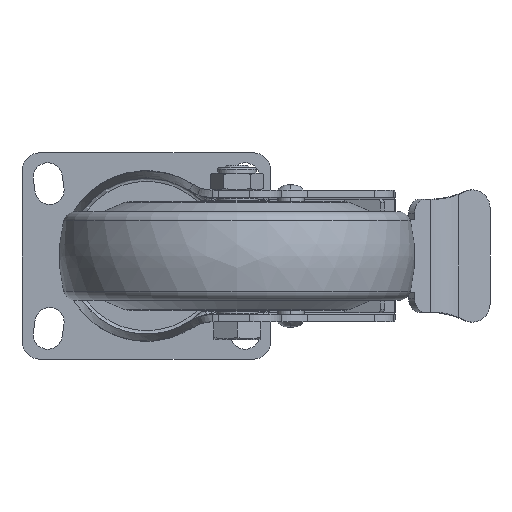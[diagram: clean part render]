
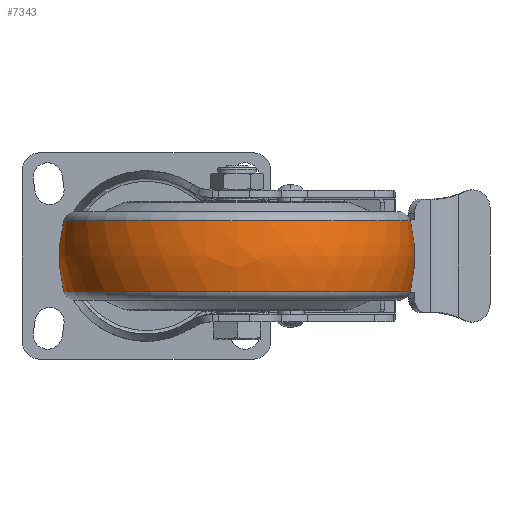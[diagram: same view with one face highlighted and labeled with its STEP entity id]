
A CAD part, front view. The second image highlights one B-rep face of the part: STEP entity #7343.
In plain terms, the highlighted free-form (B-spline) face has degree [3, 3] with [7, 4] control points.
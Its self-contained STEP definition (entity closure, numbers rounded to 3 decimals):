
#6845=CARTESIAN_POINT('',(0.,10.,0.));
#6846=DIRECTION('',(0.,0.,1.));
#6847=DIRECTION('',(0.247,0.969,0.));
#6848=AXIS2_PLACEMENT_3D('',#6845,#6846,#6847);
#6850=CARTESIAN_POINT('',(0.,-10.,0.));
#6851=DIRECTION('',(0.,0.,-1.));
#6852=DIRECTION('',(0.247,-0.969,0.));
#6853=AXIS2_PLACEMENT_3D('',#6850,#6851,#6852);
#6855=CARTESIAN_POINT('',(9.863,0.,0.));
#6856=DIRECTION('',(-1.,0.,0.));
#6857=DIRECTION('',(0.,1.,0.));
#6858=AXIS2_PLACEMENT_3D('',#6855,#6856,#6857);
#6880=CARTESIAN_POINT('',(-9.863,0.,0.));
#6881=DIRECTION('',(-1.,0.,0.));
#6882=DIRECTION('',(0.,1.,0.));
#6883=AXIS2_PLACEMENT_3D('',#6880,#6881,#6882);
#7034=CARTESIAN_POINT('',(9.863,48.765,0.));
#7036=VERTEX_POINT('',#7034);
#7037=CARTESIAN_POINT('',(-9.863,48.765,0.));
#7038=VERTEX_POINT('',#7037);
#7074=CARTESIAN_POINT('',(9.863,-48.765,
0.));
#7076=VERTEX_POINT('',#7074);
#7077=CARTESIAN_POINT('',(-9.863,-48.765,
0.));
#7078=VERTEX_POINT('',#7077);
#7305=CARTESIAN_POINT('',(-10.249,-48.569,
3.056));
#7306=CARTESIAN_POINT('',(-3.494,-50.356,
3.168));
#7307=CARTESIAN_POINT('',(3.494,-50.356,3.168));
#7308=CARTESIAN_POINT('',(10.249,-48.569,3.056));
#7309=CARTESIAN_POINT('',(-10.249,-50.449,
-26.833));
#7310=CARTESIAN_POINT('',(-3.494,-52.305,
-27.821));
#7311=CARTESIAN_POINT('',(3.494,-52.305,
-27.821));
#7312=CARTESIAN_POINT('',(10.249,-50.449,
-26.833));
#7313=CARTESIAN_POINT('',(-10.249,-29.948,
-48.665));
#7314=CARTESIAN_POINT('',(-3.494,-31.05,
-50.455));
#7315=CARTESIAN_POINT('',(3.494,-31.05,
-50.455));
#7316=CARTESIAN_POINT('',(10.249,-29.948,
-48.665));
#7317=CARTESIAN_POINT('',(-10.249,0.,
-48.665));
#7318=CARTESIAN_POINT('',(-3.494,0.,
-50.455));
#7319=CARTESIAN_POINT('',(3.494,0.,
-50.455));
#7320=CARTESIAN_POINT('',(10.249,0.,
-48.665));
#7321=CARTESIAN_POINT('',(-10.249,29.948,
-48.665));
#7322=CARTESIAN_POINT('',(-3.494,31.05,
-50.455));
#7323=CARTESIAN_POINT('',(3.494,31.05,-50.455));
#7324=CARTESIAN_POINT('',(10.249,29.948,-48.665));
#7325=CARTESIAN_POINT('',(-10.249,50.449,
-26.833));
#7326=CARTESIAN_POINT('',(-3.494,52.305,
-27.821));
#7327=CARTESIAN_POINT('',(3.494,52.305,-27.821));
#7328=CARTESIAN_POINT('',(10.249,50.449,-26.833));
#7329=CARTESIAN_POINT('',(-10.249,48.569,3.056));
#7330=CARTESIAN_POINT('',(-3.494,50.356,3.168));
#7331=CARTESIAN_POINT('',(3.494,50.356,3.168));
#7332=CARTESIAN_POINT('',(10.249,48.569,3.056));
#7333=(BOUNDED_SURFACE()B_SPLINE_SURFACE(3,3,((#7305,#7306,#7307,#7308),(#7309,
#7310,#7311,#7312),(#7313,#7314,#7315,#7316),(#7317,#7318,#7319,#7320),(#7321,
#7322,#7323,#7324),(#7325,#7326,#7327,#7328),(#7329,#7330,#7331,#7332)),
.UNSPECIFIED.,.F.,.F.,.F.)B_SPLINE_SURFACE_WITH_KNOTS((4,3,4),(4,4),(0.,1.,
2.),(0.,1.),.UNSPECIFIED.)GEOMETRIC_REPRESENTATION_ITEM()RATIONAL_B_SPLINE_SURFACE(((1.207,1.181,1.181,1.207),(
0.953,0.932,0.932,0.953),(
0.953,0.932,0.932,0.953),(
1.207,1.181,1.181,1.207),(
0.953,0.932,0.932,0.953),(
0.953,0.932,0.932,0.953),(
1.207,1.181,1.181,1.207)))REPRESENTATION_ITEM('')SURFACE());
#7335=ORIENTED_EDGE('',*,*,#7334,.T.);
#7337=ORIENTED_EDGE('',*,*,#7336,.T.);
#7339=ORIENTED_EDGE('',*,*,#7338,.F.);
#7340=ORIENTED_EDGE('',*,*,#7298,.F.);
#7341=EDGE_LOOP('',(#7335,#7337,#7339,#7340));
#7342=FACE_OUTER_BOUND('',#7341,.F.);
#6849=CIRCLE('',#6848,40.);
#6854=CIRCLE('',#6853,40.);
#6859=CIRCLE('',#6858,48.765);
#6884=CIRCLE('',#6883,48.765);
#7298=EDGE_CURVE('',#7036,#7076,#6859,.T.);
#7334=EDGE_CURVE('',#7036,#7038,#6849,.T.);
#7336=EDGE_CURVE('',#7038,#7078,#6884,.T.);
#7338=EDGE_CURVE('',#7076,#7078,#6854,.T.);
#7343=ADVANCED_FACE('',(#7342),#7333,.T.);
